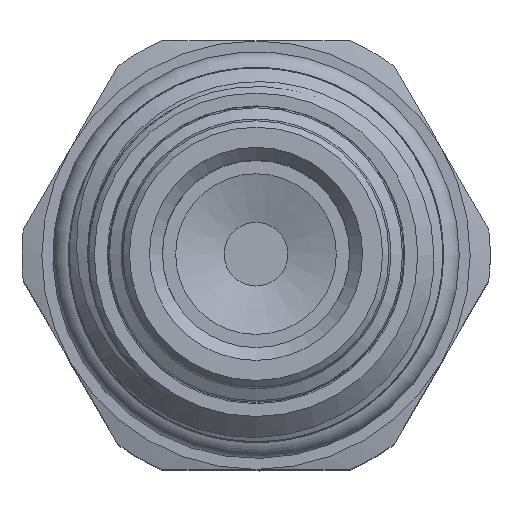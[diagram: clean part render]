
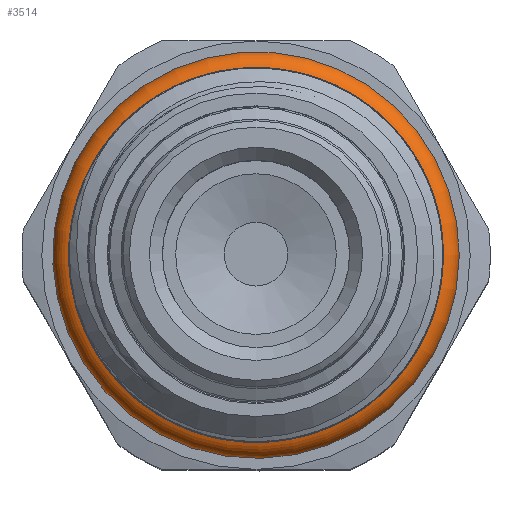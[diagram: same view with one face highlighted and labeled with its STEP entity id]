
A CAD part, top view. The second image highlights one B-rep face of the part: STEP entity #3514.
In plain terms, the highlighted toroidal (fillet/blend) face has major radius 10.82 mm and minor radius 1.232 mm.
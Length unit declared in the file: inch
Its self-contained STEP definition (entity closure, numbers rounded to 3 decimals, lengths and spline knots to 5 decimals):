
#14=TOROIDAL_SURFACE('',#3764,0.426,0.0485);
#500=FACE_OUTER_BOUND('',#702,.T.);
#702=EDGE_LOOP('',(#2859,#2860,#2861,#2862,#2863,#2864,#2865,#2866));
#813=CIRCLE('',#3622,0.4075);
#814=CIRCLE('',#3623,0.4075);
#827=CIRCLE('',#3660,0.4075);
#828=CIRCLE('',#3661,0.4075);
#866=CIRCLE('',#3765,0.0485);
#867=CIRCLE('',#3766,0.0485);
#1401=VERTEX_POINT('',#4750);
#1402=VERTEX_POINT('',#4751);
#1496=VERTEX_POINT('',#8887);
#1497=VERTEX_POINT('',#8889);
#1629=VERTEX_POINT('',#14131);
#1756=EDGE_CURVE('',#1401,#1402,#813,.T.);
#1757=EDGE_CURVE('',#1402,#1401,#814,.T.);
#1872=EDGE_CURVE('',#1497,#1496,#827,.T.);
#1873=EDGE_CURVE('',#1496,#1497,#828,.T.);
#2078=EDGE_CURVE('',#1401,#1629,#866,.T.);
#2079=EDGE_CURVE('',#1629,#1497,#867,.T.);
#2859=ORIENTED_EDGE('',*,*,#1756,.T.);
#2860=ORIENTED_EDGE('',*,*,#1757,.T.);
#2861=ORIENTED_EDGE('',*,*,#2078,.T.);
#2862=ORIENTED_EDGE('',*,*,#2079,.T.);
#2863=ORIENTED_EDGE('',*,*,#1872,.T.);
#2864=ORIENTED_EDGE('',*,*,#1873,.T.);
#2865=ORIENTED_EDGE('',*,*,#2079,.F.);
#2866=ORIENTED_EDGE('',*,*,#2078,.F.);
#3514=ADVANCED_FACE('',(#500),#14,.T.);
#3622=AXIS2_PLACEMENT_3D('',#4752,#3953,#3954);
#3623=AXIS2_PLACEMENT_3D('',#4753,#3955,#3956);
#3660=AXIS2_PLACEMENT_3D('',#8890,#4048,#4049);
#3661=AXIS2_PLACEMENT_3D('',#8891,#4050,#4051);
#3764=AXIS2_PLACEMENT_3D('',#14130,#4299,#4300);
#3765=AXIS2_PLACEMENT_3D('',#14132,#4301,#4302);
#3766=AXIS2_PLACEMENT_3D('',#14133,#4303,#4304);
#3953=DIRECTION('center_axis',(0.,0.,-1.));
#3954=DIRECTION('ref_axis',(-1.,0.,0.));
#3955=DIRECTION('center_axis',(0.,0.,-1.));
#3956=DIRECTION('ref_axis',(-1.,0.,0.));
#4048=DIRECTION('center_axis',(0.,0.,1.));
#4049=DIRECTION('ref_axis',(-1.,0.,0.));
#4050=DIRECTION('center_axis',(0.,0.,1.));
#4051=DIRECTION('ref_axis',(-1.,0.,0.));
#4299=DIRECTION('center_axis',(0.,0.,
1.));
#4300=DIRECTION('ref_axis',(0.4,-0.917,0.));
#4301=DIRECTION('center_axis',(-0.917,-0.4,0.));
#4302=DIRECTION('ref_axis',(-0.4,0.917,0.));
#4303=DIRECTION('center_axis',(-0.917,-0.4,0.));
#4304=DIRECTION('ref_axis',(-0.4,0.917,0.));
#4750=CARTESIAN_POINT('',(-0.163,0.37348,1.93733));
#4751=CARTESIAN_POINT('',(0.4075,0.,1.93733));
#4752=CARTESIAN_POINT('Origin',(0.,0.,
1.93733));
#4753=CARTESIAN_POINT('Origin',(0.,0.,
1.93733));
#8887=CARTESIAN_POINT('',(0.4075,0.,1.84767));
#8889=CARTESIAN_POINT('',(-0.163,0.37348,1.84767));
#8890=CARTESIAN_POINT('Origin',(0.,0.,
1.84767));
#8891=CARTESIAN_POINT('Origin',(0.,0.,
1.84767));
#14130=CARTESIAN_POINT('Origin',(0.,0.,
1.8925));
#14131=CARTESIAN_POINT('',(-0.1704,0.39043,1.844));
#14132=CARTESIAN_POINT('Origin',(-0.1704,0.39043,1.8925));
#14133=CARTESIAN_POINT('Origin',(-0.1704,0.39043,1.8925));
